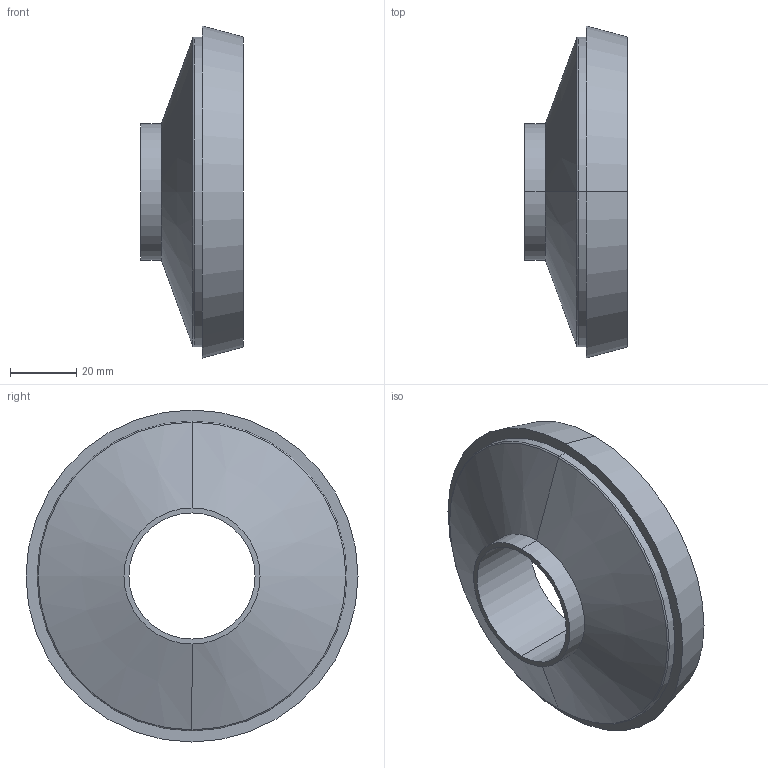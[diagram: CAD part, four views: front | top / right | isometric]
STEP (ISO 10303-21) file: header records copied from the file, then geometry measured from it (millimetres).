
FILE_DESCRIPTION (( 'STEP AP203' ), '1' );
FILE_NAME ('3D-M2024P_80-40_174211160.STEP', '2024-09-06T10:00:01', ( '' ), ( '' ), 'SwSTEP 2.0', 'SolidWorks 2024', '' );
FILE_SCHEMA (( 'CONFIG_CONTROL_DESIGN' ));
Length unit declared in the file: millimetre
Products named in the file (1): 3D-M2024P_80-40_174211160
Bounding box: 31 x 100 x 100 mm (x, y, z)
Volume: 103983 mm3; surface area: 21280.9 mm2
Topology: 1 solids, 1 shells, 17 faces, 34 edges, 20 vertices
Faces by surface type: cone 6, cylinder 6, plane 3, torus 2
Entity records: 527 total; most frequent: DIRECTION 92, CARTESIAN_POINT 72, ORIENTED_EDGE 68, AXIS2_PLACEMENT_3D 40, EDGE_CURVE 34, CIRCLE 22, VERTEX_POINT 20, EDGE_LOOP 20
